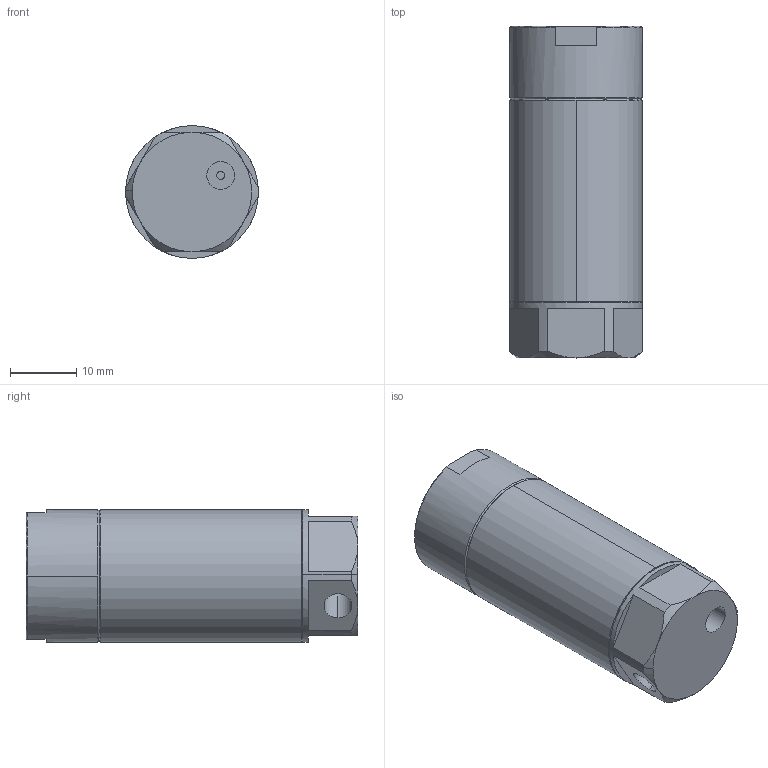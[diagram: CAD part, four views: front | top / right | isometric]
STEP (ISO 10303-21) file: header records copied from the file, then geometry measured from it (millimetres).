
FILE_DESCRIPTION (( 'STEP AP214' ), '1' );
FILE_NAME ('VFG20-10.STEP', '2019-11-15T08:19:10', ( '微软用户' ), ( '微软中国' ), 'SwSTEP 2.0', 'SolidWorks 2016', '' );
FILE_SCHEMA (( 'AUTOMOTIVE_DESIGN' ));
Length unit declared in the file: millimetre
Products named in the file (1): VFG20-10
Bounding box: 20 x 50 x 20 mm (x, y, z)
Volume: 16979.9 mm3; surface area: 16612.7 mm2
Topology: 9 solids, 9 shells, 377 faces, 881 edges, 528 vertices
Faces by surface type: cylinder 128, cone 110, plane 72, bspline 67
Entity records: 25367 total; most frequent: CARTESIAN_POINT 12777, DIRECTION 1777, ORIENTED_EDGE 1726, EDGE_CURVE 863, AXIS2_PLACEMENT_3D 734, VERTEX_POINT 528, EDGE_LOOP 423, CIRCLE 423
